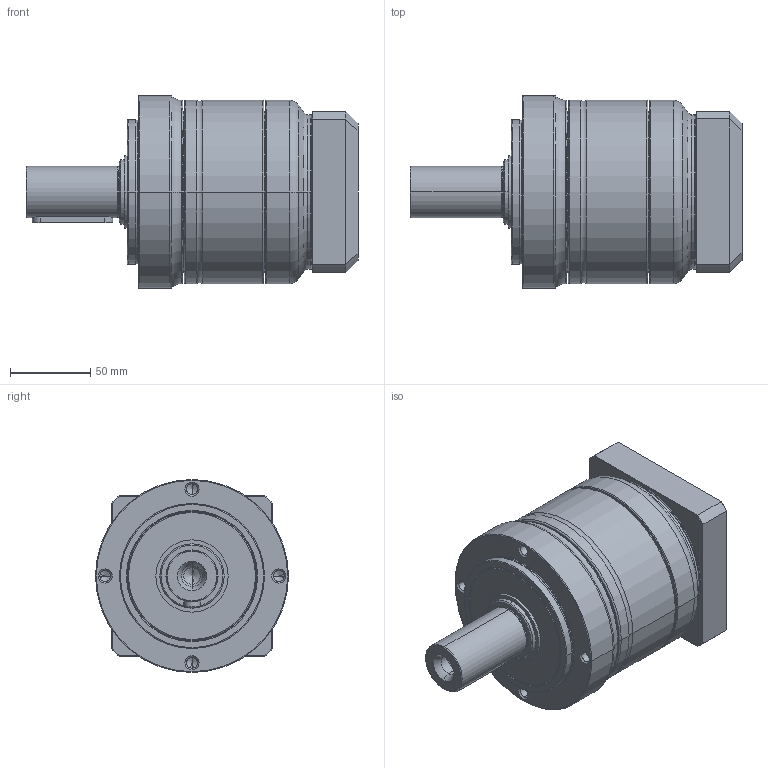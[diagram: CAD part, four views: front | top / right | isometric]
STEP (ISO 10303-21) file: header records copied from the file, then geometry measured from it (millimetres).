
FILE_DESCRIPTION((''),'2;1');
FILE_NAME('PE2-120_1ST_24-P0411500101_ASM','2017-05-31T',('d01943'),(''),'PRO/ENGINEER BY PARAMETRIC TECHNOLOGY CORPORATION, 2008410','PRO/ENGINEER BY PARAMETRIC TECHNOLOGY CORPORATION, 2008410','');
FILE_SCHEMA(('CONFIG_CONTROL_DESIGN'));
Length unit declared in the file: millimetre
Products named in the file (9): P1323410001; P0250400001; P1324400101; P0350401001; P0941401001; P0503500008; P0411500101; P1702500001; PE2-120_1ST_24-P0411500101_ASM
Assembly tree (8 placements, depth 2):
  PE2-120_1ST_24-P0411500101_ASM
    P1323410001
    P0250400001
    P1324400101
    P0350401001
    P0941401001
    P0503500008
    P0411500101
    P1702500001
Bounding box: 206.5 x 120 x 120 mm (x, y, z)
Volume: 1126836.3 mm3; surface area: 206377.9 mm2
Topology: 8 solids, 8 shells, 465 faces, 1019 edges, 584 vertices
Faces by surface type: cone 138, cylinder 136, torus 98, plane 77, bspline 16
Entity records: 17249 total; most frequent: CARTESIAN_POINT 6821, DIRECTION 2377, ORIENTED_EDGE 1974, AXIS2_PLACEMENT_3D 1021, EDGE_CURVE 987, VERTEX_POINT 584, CIRCLE 555, EDGE_LOOP 527
